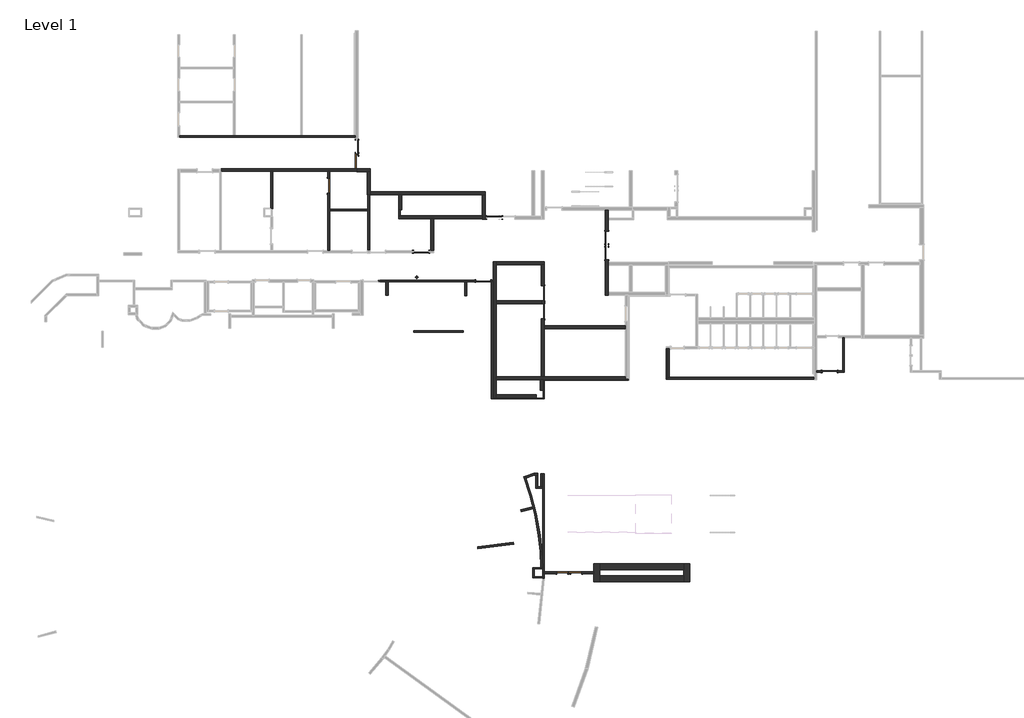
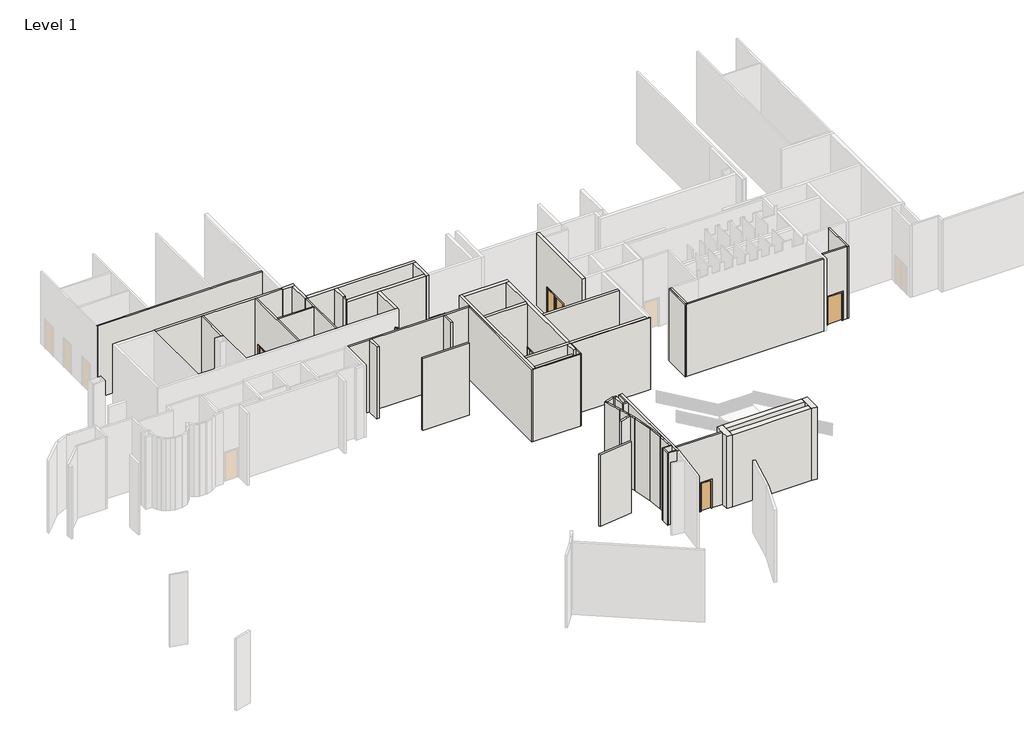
# One storey, part 6 of 10: 59 walls, 13 doors.
"""IFC4 building model written with IfcOpenShell, lengths in millimetres."""

from ifc_helpers import new_model, si_unit, frame, origin, origin_with_axes, place, context, project, spatial, polyline, outline, extrude, faceted_brep, transform, mapped, element, save
from components import door_7c9e1b45, door_3b0d1d25, door_f5ce0651, door_11de03bc, door_fe0b3fde, door_87287b79

model = new_model("IFC4")

# Units and contexts
model_context = context("Model", 3, world=origin())
ifc_project = project(units=[si_unit("LENGTHUNIT", "METRE", prefix="MILLI")], contexts=[model_context])

# Site, building, storey
site = spatial("IfcSite", under=ifc_project)
building = spatial("IfcBuilding", under=site)
storey = spatial("IfcBuildingStorey", under=building, Name="Level 1", Elevation=0.0)

# Doors
placement = place(None, origin())
door_shape = door_7c9e1b45(model_context)
element("IfcDoor", 1, ObjectType="Single-Flush : 34\" x 84\"", at=placement, inside=storey, context=model_context, shape_type="MappedRepresentation", body=[
    mapped(door_shape, transform((44907.7084121, 1092.0229172, 0.0), x_axis=(1.0, 0.0, 0.0), y_axis=(0.0, 1.0, 0.0), z_axis=(0.0, 0.0, 1.0))),
])
door_2_shape = door_3b0d1d25(model_context)
element("IfcDoor", 2, ObjectType="Single-Flush : 34\" x 84\"", at=placement, inside=storey, context=model_context, shape_type="MappedRepresentation", body=[
    mapped(door_2_shape, transform((44094.9084121, 1092.0229172, 0.0), x_axis=(-1.0, 0.0, 0.0), y_axis=(0.0, -1.0, 0.0), z_axis=(0.0, 0.0, 1.0))),
])
door_3_shape = door_f5ce0651(model_context)
element("IfcDoor", 3, ObjectType="Single-Flush : 36\" x 84\"", at=placement, inside=storey, context=model_context, shape_type="MappedRepresentation", body=[
    mapped(door_3_shape, transform((28231.2224216, 27273.072809, 0.0), x_axis=(0.0, 1.0, 0.0), y_axis=(-1.0, 0.0, 0.0), z_axis=(0.0, 0.0, 1.0))),
])
element("IfcDoor", 4, ObjectType="Single-Flush : 36\" x 84\"", at=placement, inside=storey, context=model_context, shape_type="MappedRepresentation", body=[
    mapped(door_3_shape, transform((62118.7911716, 14717.5353474, 0.0), x_axis=(-1.0, 0.0, 0.0), y_axis=(0.0, -1.0, 0.0), z_axis=(0.0, 0.0, 1.0))),
])
door_4_shape = door_11de03bc(model_context)
element("IfcDoor", 5, ObjectType="Single-Flush : 36\" x 84\"", at=placement, inside=storey, context=model_context, shape_type="MappedRepresentation", body=[
    mapped(door_4_shape, transform((30147.450819, 29848.9259526, 0.0), x_axis=(0.0, 1.0, 0.0), y_axis=(-1.0, 0.0, 0.0), z_axis=(0.0, 0.0, 1.0))),
])
element("IfcDoor", 6, ObjectType="Single-Flush : 36\" x 84\"", at=placement, inside=storey, context=model_context, shape_type="MappedRepresentation", body=[
    mapped(door_4_shape, transform((30147.450819, 28949.472809, 0.0), x_axis=(0.0, -1.0, 0.0), y_axis=(1.0, 0.0, 0.0), z_axis=(0.0, 0.0, 1.0))),
])
element("IfcDoor", 7, ObjectType="Single-Flush : 36\" x 84\"", at=placement, inside=storey, context=model_context, shape_type="MappedRepresentation", body=[
    mapped(door_4_shape, transform((39421.5099216, 25129.1858476, 0.0), x_axis=(-1.0, 0.0, 0.0), y_axis=(0.0, -1.0, 0.0), z_axis=(0.0, 0.0, 1.0))),
])
element("IfcDoor", 8, ObjectType="Single-Flush : 36\" x 84\"", at=placement, inside=storey, context=model_context, shape_type="MappedRepresentation", body=[
    mapped(door_4_shape, transform((47038.3161437, 22781.8436409, 0.0), x_axis=(0.0, -1.0, 0.0), y_axis=(1.0, 0.0, 0.0), z_axis=(0.0, 0.0, 1.0))),
])
element("IfcDoor", 9, ObjectType="Single-Flush : 36\" x 84\"", at=placement, inside=storey, context=model_context, shape_type="MappedRepresentation", body=[
    mapped(door_4_shape, transform((42728.2724797, 18776.7732534, 0.0), x_axis=(0.0, 1.0, 0.0), y_axis=(-1.0, 0.0, 0.0), z_axis=(0.0, 0.0, 1.0))),
])
door_5_shape = door_fe0b3fde(model_context)
element("IfcDoor", 10, ObjectType="Single-Flush : 36\" x 84\"", at=placement, inside=storey, context=model_context, shape_type="MappedRepresentation", body=[
    mapped(door_5_shape, transform((34482.2419789, 22810.6103474, 0.0), x_axis=(1.0, 0.0, 0.0), y_axis=(0.0, 1.0, 0.0), z_axis=(0.0, 0.0, 1.0))),
])
element("IfcDoor", 11, ObjectType="Single-Flush : 36\" x 84\"", at=placement, inside=storey, context=model_context, shape_type="MappedRepresentation", body=[
    mapped(door_3_shape, transform((38688.2023407, 20834.1732534, 0.0), x_axis=(1.0, 0.0, 0.0), y_axis=(0.0, 1.0, 0.0), z_axis=(0.0, 0.0, 1.0))),
])
door_6_shape = door_87287b79(model_context)
element("IfcDoor", 12, ObjectType="Single-Flush : 36\" x 84\"", at=placement, inside=storey, context=model_context, shape_type="MappedRepresentation", body=[
    mapped(door_6_shape, transform((47038.3161437, 23696.2436409, 0.0), x_axis=(0.0, 1.0, 0.0), y_axis=(-1.0, 0.0, 0.0), z_axis=(0.0, 0.0, 1.0))),
])
element("IfcDoor", 13, ObjectType="Single-Flush : 36\" x 84\"", at=placement, inside=storey, context=model_context, shape_type="MappedRepresentation", body=[
    mapped(door_6_shape, transform((42728.2724797, 19995.9732534, 0.0), x_axis=(0.0, -1.0, 0.0), y_axis=(1.0, 0.0, 0.0), z_axis=(0.0, 0.0, 1.0))),
])

# Walls
element("IfcWall", 14, ObjectType="N2A/B", at=placement, inside=storey, context=model_context, shape_type="Brep", body=[
    faceted_brep([(24311.6849216, 28262.085309, 0.0), (24311.6849216, 25769.7103474, 0.0), (24311.6849216, 25741.1353474, 0.0), (24311.6849216, 25741.1353474, 5486.4), (24311.6849216, 25769.7103474, 5486.4), (24311.6849216, 28262.085309, 5486.4), (24435.5099216, 28262.085309, 0.0), (24435.5099216, 28262.085309, 5486.4), (24435.5099216, 25741.1353474, 5486.4), (24435.5099216, 25741.1353474, 0.0), (24413.2849216, 25741.1353474, 0.0), (24333.9099216, 25741.1353474, 0.0), (24413.2849216, 25741.1353474, 5486.4), (24333.9099216, 25741.1353474, 5486.4)], [[[0, 1, 2, 3, 4, 5]], [[6, 7, 8, 9]], [[2, 1, 0, 6, 9, 10, 11]], [[3, 2, 11, 10, 9, 8, 12, 13]], [[5, 4, 3, 13, 12, 8, 7]], [[0, 5, 7, 6]]]),
])
element("IfcWall", 15, ObjectType="N2A/B", at=placement, inside=storey, context=model_context, shape_type="Brep", body=[
    faceted_brep([(30872.938319, 26670.5848475, 0.0), (30872.938319, 25704.5593474, 0.0), (30872.938319, 25580.7343474, 0.0), (30872.938319, 22888.3978474, 0.0), (30872.938319, 22888.3978474, 5486.4), (30872.938319, 25580.7343474, 5486.4), (30872.938319, 25704.5593474, 5486.4), (30872.938319, 26670.5848475, 5486.4), (30996.763319, 26670.5848475, 0.0), (30996.763319, 26670.5848475, 5486.4), (30996.763319, 22888.3978474, 5486.4), (30996.763319, 22888.3978474, 0.0)], [[[0, 1, 2, 3, 4, 5, 6, 7]], [[8, 9, 10, 11]], [[3, 2, 1, 0, 8, 11]], [[7, 6, 5, 4, 10, 9]], [[0, 7, 9, 8]], [[4, 3, 11, 10]]]),
])
element("IfcWall", 16, ObjectType="N2A/B", at=placement, inside=storey, context=model_context, shape_type="SweptSolid", body=[
    extrude(outline(polyline([(28293.1349216, 25704.5593474), (30872.938319, 25704.5593474), (30872.938319, 25580.7343474), (28293.1349216, 25580.7343474), (28293.1349216, 25704.5593474)])), origin_with_axes(), (0.0, 0.0, 1.0), 5486.4),
])
element("IfcWall", 17, ObjectType="N2A/B", at=placement, inside=storey, context=model_context, shape_type="Brep", body=[
    faceted_brep([(28293.1349216, 27781.072809, 2133.6), (28293.1349216, 27781.072809, 0.0), (28293.1349216, 28262.085309, 0.0), (28293.1349216, 28262.085309, 5486.4), (28293.1349216, 25704.5593474, 5486.4), (28293.1349216, 25580.7343474, 5486.4), (28293.1349216, 22888.3978474, 5486.4), (28293.1349216, 22888.3978474, 0.0), (28293.1349216, 25580.7343474, 0.0), (28293.1349216, 25704.5593474, 0.0), (28293.1349216, 26765.072809, 0.0), (28293.1349216, 26765.072809, 2133.6), (28169.3099216, 28262.085309, 0.0), (28169.3099216, 27781.072809, 0.0), (28169.3099216, 27781.072809, 2133.6), (28169.3099216, 26765.072809, 2133.6), (28169.3099216, 26765.072809, 0.0), (28169.3099216, 22888.3978474, 0.0), (28169.3099216, 22888.3978474, 5486.4), (28169.3099216, 28262.085309, 5486.4)], [[[0, 1, 2, 3, 4, 5, 6, 7, 8, 9, 10, 11]], [[12, 13, 14, 15, 16, 17, 18, 19]], [[2, 1, 13, 12]], [[10, 9, 8, 7, 17, 16]], [[6, 5, 4, 3, 19, 18]], [[7, 6, 18, 17]], [[3, 2, 12, 19]], [[14, 13, 1, 0]], [[15, 14, 0, 11]], [[16, 15, 11, 10]]]),
])
element("IfcWall", 18, ObjectType="N3A/B", at=placement, inside=storey, context=model_context, shape_type="Brep", body=[
    faceted_brep([(20977.9349216, 28262.085309, 0.0), (24311.6849216, 28262.085309, 0.0), (24435.5099216, 28262.085309, 0.0), (28169.3099216, 28262.085309, 0.0), (28293.1349216, 28262.085309, 0.0), (30147.450819, 28262.085309, 0.0), (30147.450819, 28262.085309, 5486.4), (28293.1349216, 28262.085309, 5486.4), (28169.3099216, 28262.085309, 5486.4), (24435.5099216, 28262.085309, 5486.4), (24311.6849216, 28262.085309, 5486.4), (20977.9349216, 28262.085309, 5486.4), (20977.9349216, 28417.660309, 0.0), (20977.9349216, 28417.660309, 5486.4), (30045.850819, 28417.660309, 5486.4), (30147.450819, 28417.660309, 5486.4), (30147.450819, 28417.660309, 0.0), (30045.850819, 28417.660309, 0.0), (20977.9349216, 28407.6094625, 0.0), (20977.9349216, 28407.6094625, 5486.4)], [[[0, 1, 2, 3, 4, 5, 6, 7, 8, 9, 10, 11]], [[12, 13, 14, 15, 16, 17]], [[5, 4, 3, 2, 1, 0, 18, 12, 17, 16]], [[6, 5, 16, 15]], [[11, 10, 9, 8, 7, 6, 15, 14, 13, 19]], [[0, 11, 19, 13, 12, 18]]]),
])
element("IfcWall", 19, ObjectType="N2A/B", at=placement, inside=storey, context=model_context, shape_type="SweptSolid", body=[
    extrude(outline(polyline([(51155.7359096, 14325.3601114), (51155.7359096, 16262.1728485), (51279.5609096, 16262.1728485), (51279.5609096, 14325.3601114), (51155.7359096, 14325.3601114)])), origin_with_axes(), (0.0, 0.0, 1.0), 5486.4),
])
element("IfcWall", 20, ObjectType="F1A", at=placement, inside=storey, context=model_context, shape_type="Brep", body=[
    faceted_brep([(51084.8538548, 16262.1728485, 0.0), (51084.8538548, 14201.5351114, 0.0), (51084.8538548, 14201.5351114, 5486.4), (51084.8538548, 16262.1728485, 5486.4), (51142.0038548, 16262.1728485, 0.0), (51142.0038548, 16262.1728485, 5486.4), (51142.0038548, 14325.3601114, 5486.4), (51142.0038548, 14201.5351114, 5486.4), (51142.0038548, 14201.5351114, 0.0), (51142.0038548, 14325.3601114, 0.0)], [[[0, 1, 2, 3]], [[4, 5, 6, 7, 8, 9]], [[1, 0, 4, 9, 8]], [[3, 2, 7, 6, 5]], [[2, 1, 8, 7]], [[0, 3, 5, 4]]]),
])
element("IfcWall", 21, ObjectType="F1C", at=placement, inside=storey, context=model_context, shape_type="Brep", body=[
    faceted_brep([(18141.188319, 30556.9509526, 0.0), (30045.850819, 30556.9509526, 0.0), (30045.850819, 30556.9509526, 5486.4), (18141.188319, 30556.9509526, 5486.4), (18141.188319, 30664.9009526, 0.0), (18141.188319, 30664.9009526, 5486.4), (21792.438319, 30664.9009526, 5486.4), (21900.388319, 30664.9009526, 5486.4), (26326.338319, 30664.9009526, 5486.4), (26434.288319, 30664.9009526, 5486.4), (29945.838319, 30664.9009526, 5486.4), (30045.850819, 30664.9009526, 5486.4), (30045.850819, 30664.9009526, 0.0), (29945.838319, 30664.9009526, 0.0), (26434.288319, 30664.9009526, 0.0), (26326.338319, 30664.9009526, 0.0), (21900.388319, 30664.9009526, 0.0), (21792.438319, 30664.9009526, 0.0)], [[[0, 1, 2, 3]], [[4, 5, 6, 7, 8, 9, 10, 11, 12, 13, 14, 15, 16, 17]], [[1, 0, 4, 17, 16, 15, 14, 13, 12]], [[3, 2, 11, 10, 9, 8, 7, 6, 5]], [[0, 3, 5, 4]], [[2, 1, 12, 11]]]),
])
element("IfcWall", 22, ObjectType="F4A", at=placement, inside=storey, context=model_context, shape_type="Brep", body=[
    faceted_brep([(42701.2849216, 7810.4583871, 0.0), (42701.2849216, 6922.5200025, 0.0), (42701.2849216, 6798.6950025, 0.0), (42701.2849216, 1451.8594628, 0.0), (42701.2849216, 1372.4844628, 0.0), (42701.2849216, 831.1469628, 0.0), (42701.2849216, 751.7719628, 0.0), (42701.2849216, 701.7030838, 0.0), (42701.2849216, 701.7030838, 5486.4), (42701.2849216, 751.7719628, 5486.4), (42701.2849216, 831.1469628, 5486.4), (42701.2849216, 1372.4844628, 5486.4), (42701.2849216, 1451.8594628, 5486.4), (42701.2849216, 6798.6950025, 5486.4), (42701.2849216, 6922.5200025, 5486.4), (42701.2849216, 7810.4583871, 5486.4), (42825.1099216, 7810.4583871, 0.0), (42825.1099216, 7810.4583871, 5486.4), (42825.1099216, 1153.9354172, 5486.4), (42825.1099216, 1030.1104172, 5486.4), (42825.1099216, 695.2136905, 5486.4), (42825.1099216, 695.2136905, 0.0), (42825.1099216, 1030.1104172, 0.0), (42825.1099216, 1153.9354172, 0.0)], [[[0, 1, 2, 3, 4, 5, 6, 7, 8, 9, 10, 11, 12, 13, 14, 15]], [[16, 17, 18, 19, 20, 21, 22, 23]], [[7, 6, 5, 4, 3, 2, 1, 0, 16, 23, 22, 21]], [[15, 14, 13, 12, 11, 10, 9, 8, 20, 19, 18, 17]], [[0, 15, 17, 16]], [[8, 7, 21, 20]]]),
])
element("IfcWall", 23, ObjectType="F4A", at=placement, inside=storey, context=model_context, shape_type="SweptSolid", body=[
    extrude(outline(polyline([(0.0, 46152.3084121), (5486.4, 46152.3084121), (5486.4, 42825.1099216), (0.0, 42825.1099216), (0.0, 43663.1084121), (2133.6, 43663.1084121), (2133.6, 45339.5084121), (0.0, 45339.5084121), (0.0, 46152.3084121)])), frame((0.0, 1030.1104172, 0.0), z_axis=(0.0, 1.0, 0.0), x_axis=(0.0, 0.0, 1.0)), (0.0, 0.0, 1.0), 123.825),
])
element("IfcWall", 24, ObjectType="F4A", at=placement, inside=storey, context=model_context, shape_type="SweptSolid", body=[
    extrude(outline(polyline([(40739.2640745, 3033.1011519), (38319.0395383, 2735.9349449), (38303.9490669, 2858.8369721), (40724.173603, 3156.0031791), (40739.2640745, 3033.1011519)])), origin_with_axes(), (0.0, 0.0, 1.0), 5486.4),
])
element("IfcWall", 25, ObjectType="F4A", at=placement, inside=storey, context=model_context, shape_type="SweptSolid", body=[
    extrude(outline(polyline([(42135.4554374, 7690.0334855), (41567.8416434, 7494.5883825), (41529.5717854, 7612.3708945), (42114.7342388, 7813.8584855), (42135.4554374, 7690.0334855)])), origin_with_axes(), (0.0, 0.0, 1.0), 5486.4),
])
element("IfcWall", 26, ObjectType="F4A", at=placement, inside=storey, context=model_context, shape_type="Brep", body=[
    faceted_brep([(42135.4554374, 7690.0334855, 0.0), (42247.3323381, 7690.0334855, 0.0), (42371.1573381, 7690.0334855, 0.0), (42371.1573381, 7690.0334855, 5486.4), (42247.3323381, 7690.0334855, 5486.4), (42135.4554374, 7690.0334855, 5486.4), (42114.7342388, 7813.8584855, 0.0), (42114.7342388, 7813.8584855, 5486.4), (42371.1573381, 7813.8584855, 5486.4), (42371.1573381, 7813.8584855, 0.0)], [[[0, 1, 2, 3, 4, 5]], [[6, 7, 8, 9]], [[2, 1, 0, 6, 9]], [[5, 4, 3, 8, 7]], [[0, 5, 7, 6]], [[3, 2, 9, 8]]]),
])
element("IfcWall", 27, ObjectType="F4A", at=placement, inside=storey, context=model_context, shape_type="Brep", body=[
    faceted_brep([(42247.3323381, 7690.0334855, 0.0), (42247.3323381, 6798.6950025, 0.0), (42247.3323381, 6798.6950025, 5486.4), (42247.3323381, 7690.0334855, 5486.4), (42371.1573381, 7690.0334855, 0.0), (42371.1573381, 7690.0334855, 5486.4), (42371.1573381, 6922.5200025, 5486.4), (42371.1573381, 6798.6950025, 5486.4), (42371.1573381, 6798.6950025, 0.0), (42371.1573381, 6922.5200025, 0.0)], [[[0, 1, 2, 3]], [[4, 5, 6, 7, 8, 9]], [[1, 0, 4, 9, 8]], [[3, 2, 7, 6, 5]], [[2, 1, 8, 7]], [[0, 3, 5, 4]]]),
])
element("IfcWall", 28, ObjectType="F4A", at=placement, inside=storey, context=model_context, shape_type="Brep", body=[
    faceted_brep([(42371.1573381, 6798.6950025, 0.0), (42701.2849216, 6798.6950025, 0.0), (42701.2849216, 6798.6950025, 5486.4), (42371.1573381, 6798.6950025, 5486.4), (42371.1573381, 6922.5200025, 0.0), (42371.1573381, 6922.5200025, 5486.4), (42574.3246855, 6922.5200025, 5486.4), (42698.1496855, 6922.5200025, 5486.4), (42701.2849216, 6922.5200025, 5486.4), (42701.2849216, 6922.5200025, 0.0), (42698.1496855, 6922.5200025, 0.0), (42574.3246855, 6922.5200025, 0.0)], [[[0, 1, 2, 3]], [[4, 5, 6, 7, 8, 9, 10, 11]], [[1, 0, 4, 11, 10, 9]], [[3, 2, 8, 7, 6, 5]], [[0, 3, 5, 4]], [[2, 1, 9, 8]]]),
])
element("IfcWall", 29, ObjectType="F4A", at=placement, inside=storey, context=model_context, shape_type="SweptSolid", body=[
    extrude(outline(polyline([(42698.1496855, 7811.5200025), (42698.1496855, 6922.5200025), (42574.3246855, 6922.5200025), (42574.3246855, 7811.5200025), (42698.1496855, 7811.5200025)])), origin_with_axes(), (0.0, 0.0, 1.0), 5486.4),
])
element("IfcWall", 30, ObjectType="F5A", at=placement, inside=storey, context=model_context, shape_type="Brep", body=[
    faceted_brep([(48505.1849216, 14175.8909273, 0.0), (42790.1854064, 14175.8909273, 0.0), (42790.1854064, 14175.8909273, 5486.4), (48505.1849216, 14175.8909273, 5486.4), (48505.1849216, 14118.7409273, 0.0), (48505.1849216, 14118.7409273, 5486.4), (42818.7604064, 14118.7409273, 5486.4), (42790.1854064, 14118.7409273, 5486.4), (42790.1854064, 14118.7409273, 0.0), (42818.7604064, 14118.7409273, 0.0)], [[[0, 1, 2, 3]], [[4, 5, 6, 7, 8, 9]], [[1, 0, 4, 9, 8]], [[2, 1, 8, 7]], [[3, 2, 7, 6, 5]], [[0, 3, 5, 4]]]),
])
element("IfcWall", 31, ObjectType="F5A", at=placement, inside=storey, context=model_context, shape_type="Brep", body=[
    faceted_brep([(42818.7604064, 12864.3019201, 0.0), (42818.7604064, 14118.7409273, 0.0), (42818.7604064, 14118.7409273, 5486.4), (42818.7604064, 12864.3019201, 5486.4), (42761.6104064, 12864.3019201, 0.0), (42761.6104064, 12864.3019201, 5486.4), (42761.6104064, 12921.4519201, 5486.4), (42761.6104064, 14118.7409273, 5486.4), (42761.6104064, 14118.7409273, 0.0), (42761.6104064, 12921.4519201, 0.0), (42790.1854064, 14118.7409273, 0.0), (42790.1854064, 14118.7409273, 5486.4)], [[[0, 1, 2, 3]], [[4, 5, 6, 7, 8, 9]], [[1, 0, 4, 9, 8, 10]], [[3, 2, 11, 7, 6, 5]], [[0, 3, 5, 4]], [[2, 1, 10, 8, 7, 11]]]),
])
element("IfcWall", 32, ObjectType="F5A", at=placement, inside=storey, context=model_context, shape_type="SweptSolid", body=[
    extrude(outline(polyline([(42761.6104064, 12864.3019201), (39351.7773407, 12864.3019201), (39351.7773407, 12921.4519201), (42761.6104064, 12921.4519201), (42761.6104064, 12864.3019201)])), origin_with_axes(), (0.0, 0.0, 1.0), 5486.4),
])
element("IfcWall", 33, ObjectType="F5B", at=placement, inside=storey, context=model_context, shape_type="Brep", body=[
    faceted_brep([(39351.7773407, 12864.3019201, 0.0), (39351.7773407, 12921.4519201, 0.0), (39351.7773407, 20772.2607534, 0.0), (39351.7773407, 20772.2607534, 5486.4), (39351.7773407, 12921.4519201, 5486.4), (39351.7773407, 12864.3019201, 5486.4), (39243.8273407, 12864.3019201, 0.0), (39243.8273407, 12864.3019201, 5486.4), (39243.8273407, 20772.2607534, 5486.4), (39243.8273407, 20772.2607534, 0.0)], [[[0, 1, 2, 3, 4, 5]], [[6, 7, 8, 9]], [[2, 1, 0, 6, 9]], [[5, 4, 3, 8, 7]], [[0, 5, 7, 6]], [[3, 2, 9, 8]]]),
])
element("IfcWall", 34, ObjectType="F5B", at=placement, inside=storey, context=model_context, shape_type="Brep", body=[
    faceted_brep([(42540.1963899, 2531.0859585, 0.0), (42596.7562539, 1451.8594628, 0.0), (42596.7562539, 1451.8594628, 5486.4), (42540.1963899, 2531.0859585, 5486.4), (42647.8505065, 2539.5585212, 0.0), (42647.8505065, 2539.5585212, 5486.4), (42704.8543987, 1451.8594628, 5486.4), (42704.8543987, 1451.8594628, 0.0), (42701.2849216, 1451.8594628, 0.0), (42701.2849216, 1451.8594628, 5486.4)], [[[0, 1, 2, 3]], [[4, 5, 6, 7]], [[1, 0, 4, 7, 8]], [[3, 2, 9, 6, 5]], [[0, 3, 5, 4]], [[2, 1, 8, 7, 6, 9]]]),
])
element("IfcWall", 35, ObjectType="F5B", at=placement, inside=storey, context=model_context, shape_type="SweptSolid", body=[
    extrude(outline(polyline([(42533.3397596, 3629.0555009), (42647.8505065, 2539.5585212), (42540.1963899, 2531.0859585), (42426.3751617, 3614.0226071), (42533.3397596, 3629.0555009)])), origin_with_axes(), (0.0, 0.0, 1.0), 5486.4),
])
element("IfcWall", 36, ObjectType="F5B", at=placement, inside=storey, context=model_context, shape_type="SweptSolid", body=[
    extrude(outline(polyline([(42276.7847446, 5084.0512935), (42533.3397596, 3629.0555009), (42426.3751617, 3614.0226071), (42171.293186, 5060.664378), (42276.7847446, 5084.0512935)])), origin_with_axes(), (0.0, 0.0, 1.0), 5486.4),
])
element("IfcWall", 37, ObjectType="F5B", at=placement, inside=storey, context=model_context, shape_type="Brep", body=[
    faceted_brep([(42276.7847446, 5084.0512935, 0.0), (41927.3868023, 6388.0221662, 0.0), (41927.3868023, 6388.0221662, 5486.4), (42276.7847446, 5084.0512935, 5486.4), (42171.293186, 5060.664378, 0.0), (42171.293186, 5060.664378, 5486.4), (42068.3338148, 5444.9139826, 5486.4), (42036.2855465, 5564.5197481, 5486.4), (41823.8467313, 6357.3521999, 5486.4), (41823.8467313, 6357.3521999, 0.0), (42036.2855465, 5564.5197481, 0.0), (42068.3338148, 5444.9139826, 0.0)], [[[0, 1, 2, 3]], [[4, 5, 6, 7, 8, 9, 10, 11]], [[1, 0, 4, 11, 10, 9]], [[3, 2, 8, 7, 6, 5]], [[2, 1, 9, 8]], [[0, 3, 5, 4]]]),
])
element("IfcWall", 38, ObjectType="F5B", at=placement, inside=storey, context=model_context, shape_type="Brep", body=[
    faceted_brep([(41927.3868023, 6388.0221662, 0.0), (41567.8416434, 7494.5883825, 0.0), (41529.5717854, 7612.3708945, 0.0), (41529.5717854, 7612.3708945, 5486.4), (41567.8416434, 7494.5883825, 5486.4), (41927.3868023, 6388.0221662, 5486.4), (41823.8467313, 6357.3521999, 0.0), (41823.8467313, 6357.3521999, 5486.4), (41427.4875072, 7577.2204587, 5486.4), (41427.4875072, 7577.2204587, 0.0)], [[[0, 1, 2, 3, 4, 5]], [[6, 7, 8, 9]], [[2, 1, 0, 6, 9]], [[5, 4, 3, 8, 7]], [[3, 2, 9, 8]], [[0, 5, 7, 6]]]),
])
element("IfcWall", 39, ObjectType="F5C", at=placement, inside=storey, context=model_context, shape_type="Brep", body=[
    faceted_brep([(42701.2849216, 1451.8594628, 0.0), (42596.7562539, 1451.8594628, 0.0), (42051.9974216, 1451.8594628, 0.0), (42051.9974216, 1451.8594628, 5486.4), (42596.7562539, 1451.8594628, 5486.4), (42701.2849216, 1451.8594628, 5486.4), (42701.2849216, 1372.4844628, 0.0), (42701.2849216, 1372.4844628, 5486.4), (42131.3724216, 1372.4844628, 5486.4), (42051.9974216, 1372.4844628, 5486.4), (42051.9974216, 1372.4844628, 0.0), (42131.3724216, 1372.4844628, 0.0)], [[[0, 1, 2, 3, 4, 5]], [[6, 7, 8, 9, 10, 11]], [[2, 1, 0, 6, 11, 10]], [[5, 4, 3, 9, 8, 7]], [[3, 2, 10, 9]], [[0, 5, 7, 6]]]),
])
element("IfcWall", 40, ObjectType="F5C", at=placement, inside=storey, context=model_context, shape_type="Brep", body=[
    faceted_brep([(42051.9974216, 1372.4844628, 0.0), (42051.9974216, 751.7719628, 0.0), (42051.9974216, 751.7719628, 5486.4), (42051.9974216, 1372.4844628, 5486.4), (42131.3724216, 1372.4844628, 0.0), (42131.3724216, 1372.4844628, 5486.4), (42131.3724216, 831.1469628, 5486.4), (42131.3724216, 751.7719628, 5486.4), (42131.3724216, 751.7719628, 0.0), (42131.3724216, 831.1469628, 0.0)], [[[0, 1, 2, 3]], [[4, 5, 6, 7, 8, 9]], [[1, 0, 4, 9, 8]], [[3, 2, 7, 6, 5]], [[2, 1, 8, 7]], [[0, 3, 5, 4]]]),
])
element("IfcWall", 41, ObjectType="F5C", at=placement, inside=storey, context=model_context, shape_type="SweptSolid", body=[
    extrude(outline(polyline([(42701.2849216, 751.7719628), (42131.3724216, 751.7719628), (42131.3724216, 831.1469628), (42701.2849216, 831.1469628), (42701.2849216, 751.7719628)])), origin_with_axes(), (0.0, 0.0, 1.0), 5486.4),
])
element("IfcWall", 42, ObjectType="N11A", at=placement, inside=storey, context=model_context, shape_type="Brep", body=[
    faceted_brep([(30569.6099216, 20772.2607534, 0.0), (30579.1349216, 20772.2607534, 0.0), (30579.1349216, 20772.2607534, 2133.6), (31595.1349216, 20772.2607534, 2133.6), (31595.1349216, 20772.2607534, 0.0), (32087.2599216, 20772.2607534, 0.0), (32271.4099216, 20772.2607534, 0.0), (37437.1419568, 20772.2607534, 0.0), (37560.9669568, 20772.2607534, 0.0), (38180.2023407, 20772.2607534, 0.0), (38180.2023407, 20772.2607534, 2133.6), (39196.2023407, 20772.2607534, 2133.6), (39196.2023407, 20772.2607534, 0.0), (39243.8273407, 20772.2607534, 0.0), (39351.7773407, 20772.2607534, 0.0), (39353.311612, 20772.2607534, 0.0), (39353.311612, 20772.2607534, 5486.4), (39351.7773407, 20772.2607534, 5486.4), (39243.8273407, 20772.2607534, 5486.4), (37560.9669568, 20772.2607534, 5486.4), (37437.1419568, 20772.2607534, 5486.4), (32271.4099216, 20772.2607534, 5486.4), (32087.2599216, 20772.2607534, 5486.4), (30569.6099216, 20772.2607534, 5486.4), (30579.1349216, 20896.0857534, 2133.6), (30579.1349216, 20896.0857534, 0.0), (30569.6099216, 20896.0857534, 0.0), (30569.6099216, 20896.0857534, 5486.4), (39353.311612, 20896.0857534, 5486.4), (39353.311612, 20896.0857534, 0.0), (39196.2023407, 20896.0857534, 0.0), (39196.2023407, 20896.0857534, 2133.6), (38180.2023407, 20896.0857534, 2133.6), (38180.2023407, 20896.0857534, 0.0), (31595.1349216, 20896.0857534, 0.0), (31595.1349216, 20896.0857534, 2133.6)], [[[0, 1, 2, 3, 4, 5, 6, 7, 8, 9, 10, 11, 12, 13, 14, 15, 16, 17, 18, 19, 20, 21, 22, 23]], [[24, 25, 26, 27, 28, 29, 30, 31, 32, 33, 34, 35]], [[15, 14, 13, 12, 30, 29]], [[26, 25, 1, 0]], [[34, 33, 9, 8, 7, 6, 5, 4]], [[23, 22, 21, 20, 19, 18, 17, 16, 28, 27]], [[16, 15, 29, 28]], [[0, 23, 27, 26]], [[31, 30, 12, 11]], [[32, 31, 11, 10]], [[33, 32, 10, 9]], [[2, 1, 25, 24]], [[3, 2, 24, 35]], [[4, 3, 35, 34]]]),
])
element("IfcWall", 43, ObjectType="N11B", at=placement, inside=storey, context=model_context, shape_type="SweptSolid", body=[
    extrude(outline(polyline([(32087.2599216, 19867.3857534), (32087.2599216, 20772.2607534), (32271.4099216, 20772.2607534), (32271.4099216, 19867.3857534), (32087.2599216, 19867.3857534)])), origin_with_axes(), (0.0, 0.0, 1.0), 5486.4),
])
element("IfcWall", 44, ObjectType="N16A", at=placement, inside=storey, context=model_context, shape_type="SweptSolid", body=[
    extrude(outline(polyline([(37326.0287296, 17361.9486303), (33973.2099271, 17361.9486303), (33973.2099271, 17485.7736303), (37326.0287296, 17485.7736303), (37326.0287296, 17361.9486303)])), origin_with_axes(), (0.0, 0.0, 1.0), 5486.4),
])
element("IfcWall", 45, ObjectType="N17A", at=placement, inside=storey, context=model_context, shape_type="SweptSolid", body=[
    extrude(outline(polyline([(37437.1419568, 19849.922731), (37437.1419568, 20772.2607534), (37560.9669568, 20772.2607534), (37560.9669568, 19849.922731), (37437.1419568, 19849.922731)])), origin_with_axes(), (0.0, 0.0, 1.0), 5486.4),
])
element("IfcWall", 46, ObjectType="N17A", at=placement, inside=storey, context=model_context, shape_type="SweptSolid", body=[
    extrude(outline(polyline([(41228.3947222, 5348.0460541), (42036.2855465, 5564.5197481), (42068.3338148, 5444.9139826), (41260.4429905, 5228.4402887), (41228.3947222, 5348.0460541)])), origin_with_axes(), (0.0, 0.0, 1.0), 5486.4),
])
element("IfcWall", 47, ObjectType="N1A", at=placement, inside=storey, context=model_context, shape_type="Brep", body=[
    faceted_brep([(51142.0038548, 14201.5351114, 0.0), (61067.0724216, 14201.5351114, 0.0), (61067.0724216, 14201.5351114, 5486.4), (51142.0038548, 14201.5351114, 5486.4), (51142.0038548, 14325.3601114, 0.0), (51142.0038548, 14325.3601114, 5486.4), (51155.7359096, 14325.3601114, 5486.4), (51279.5609096, 14325.3601114, 5486.4), (61067.0724216, 14325.3601114, 5486.4), (61067.0724216, 14325.3601114, 0.0), (51279.5609096, 14325.3601114, 0.0), (51155.7359096, 14325.3601114, 0.0)], [[[0, 1, 2, 3]], [[4, 5, 6, 7, 8, 9, 10, 11]], [[1, 0, 4, 11, 10, 9]], [[2, 1, 9, 8]], [[3, 2, 8, 7, 6, 5]], [[0, 3, 5, 4]]]),
])
element("IfcWall", 48, ObjectType="N1A", at=placement, inside=storey, context=model_context, shape_type="Brep", body=[
    faceted_brep([(63006.9974216, 17011.4728474, 0.0), (63006.9974216, 14779.4478474, 0.0), (63006.9974216, 14655.6228474, 0.0), (63006.9974216, 14655.6228474, 5486.4), (63006.9974216, 14779.4478474, 5486.4), (63006.9974216, 17011.4728474, 5486.4), (63130.8224216, 17011.4728474, 0.0), (63130.8224216, 17011.4728474, 5486.4), (63130.8224216, 14655.6228474, 5486.4), (63130.8224216, 14655.6228474, 0.0)], [[[0, 1, 2, 3, 4, 5]], [[6, 7, 8, 9]], [[2, 1, 0, 6, 9]], [[5, 4, 3, 8, 7]], [[3, 2, 9, 8]], [[0, 5, 7, 6]]]),
])
element("IfcWall", 49, ObjectType="N1A", at=placement, inside=storey, context=model_context, shape_type="SweptSolid", body=[
    extrude(outline(polyline([(0.0, 61260.7474216), (0.0, 61610.7911716), (2133.6, 61610.7911716), (2133.6, 62626.7911716), (0.0, 62626.7911716), (0.0, 63006.9974216), (5486.4, 63006.9974216), (5486.4, 61260.7474216), (0.0, 61260.7474216)])), frame((0.0, 14655.6228474, 0.0), z_axis=(0.0, 1.0, 0.0), x_axis=(0.0, 0.0, 1.0)), (0.0, 0.0, 1.0), 123.825),
])
element("IfcWall", 50, ObjectType="N1A", at=placement, inside=storey, context=model_context, shape_type="SweptSolid", body=[
    extrude(outline(polyline([(34208.046716, 20990.4878194), (34100.2836426, 21098.2508928), (34187.8411397, 21185.80839), (34295.6042132, 21078.0453165), (34208.046716, 20990.4878194)])), origin_with_axes(), (0.0, 0.0, 1.0), 5486.4),
])
element("IfcWall", 51, ObjectType="N5A", at=placement, inside=storey, context=model_context, shape_type="SweptSolid", body=[
    extrude(outline(polyline([(33070.9544789, 25642.6468474), (33070.9544789, 25250.5978474), (32969.3544789, 25250.5978474), (32969.3544789, 25642.6468474), (33070.9544789, 25642.6468474)])), origin_with_axes(), (0.0, 0.0, 1.0), 5486.4),
])
element("IfcWall", 52, ObjectType="N5C", at=placement, inside=storey, context=model_context, shape_type="Brep", body=[
    faceted_brep([(30147.450819, 28238.272809, 0.0), (30833.250819, 28238.272809, 0.0), (31036.450819, 28238.272809, 0.0), (31036.450819, 28238.272809, 5486.4), (30833.250819, 28238.272809, 5486.4), (30147.450819, 28238.272809, 5486.4), (30147.450819, 28441.472809, 0.0), (30147.450819, 28441.472809, 2133.6), (30147.450819, 28441.472809, 5486.4), (30249.050819, 28441.472809, 5486.4), (31036.450819, 28441.472809, 5486.4), (31036.450819, 28441.472809, 0.0), (30147.450819, 28262.085309, 0.0), (30147.450819, 28417.660309, 0.0), (30147.450819, 28417.660309, 5486.4), (30147.450819, 28262.085309, 5486.4)], [[[0, 1, 2, 3, 4, 5]], [[6, 7, 8, 9, 10, 11]], [[2, 1, 0, 12, 13, 6, 11]], [[5, 4, 3, 10, 9, 8, 14, 15]], [[0, 5, 15, 14, 8, 7, 6, 13, 12]], [[3, 2, 11, 10]]]),
])
element("IfcWall", 53, ObjectType="N5C", at=placement, inside=storey, context=model_context, shape_type="Brep", body=[
    faceted_brep([(30833.250819, 28238.272809, 0.0), (30833.250819, 26670.5848475, 0.0), (30833.250819, 26670.5848475, 5486.4), (30833.250819, 28238.272809, 5486.4), (31036.450819, 28238.272809, 0.0), (31036.450819, 28238.272809, 5486.4), (31036.450819, 26873.7848475, 5486.4), (31036.450819, 26670.5848475, 5486.4), (31036.450819, 26670.5848475, 0.0), (31036.450819, 26873.7848475, 0.0), (30996.763319, 26670.5848475, 0.0), (30872.938319, 26670.5848475, 0.0), (30872.938319, 26670.5848475, 5486.4), (30996.763319, 26670.5848475, 5486.4)], [[[0, 1, 2, 3]], [[4, 5, 6, 7, 8, 9]], [[1, 0, 4, 9, 8, 10, 11]], [[3, 2, 12, 13, 7, 6, 5]], [[2, 1, 11, 10, 8, 7, 13, 12]], [[0, 3, 5, 4]]]),
])
element("IfcWall", 54, ObjectType="N5C", at=placement, inside=storey, context=model_context, shape_type="Brep", body=[
    faceted_brep([(31036.450819, 26670.5848475, 0.0), (32965.1474216, 26670.5848475, 0.0), (33168.3474216, 26670.5848475, 0.0), (38634.1099216, 26670.5848475, 0.0), (38837.3099216, 26670.5848475, 0.0), (38837.3099216, 26670.5848475, 5486.4), (38634.1099216, 26670.5848475, 5486.4), (33168.3474216, 26670.5848475, 5486.4), (32965.1474216, 26670.5848475, 5486.4), (31036.450819, 26670.5848475, 5486.4), (31036.450819, 26873.7848475, 0.0), (31036.450819, 26873.7848475, 5486.4), (38837.3099216, 26873.7848475, 5486.4), (38837.3099216, 26873.7848475, 0.0)], [[[0, 1, 2, 3, 4, 5, 6, 7, 8, 9]], [[10, 11, 12, 13]], [[4, 3, 2, 1, 0, 10, 13]], [[9, 8, 7, 6, 5, 12, 11]], [[5, 4, 13, 12]], [[0, 9, 11, 10]]]),
])
element("IfcWall", 55, ObjectType="N5C", at=placement, inside=storey, context=model_context, shape_type="Brep", body=[
    faceted_brep([(38634.1099216, 26670.5848475, 0.0), (38634.1099216, 25250.5978474, 0.0), (38634.1099216, 25047.3978474, 0.0), (38634.1099216, 25027.5858476, 0.0), (38634.1099216, 25027.5858476, 5486.4), (38634.1099216, 25047.3978474, 5486.4), (38634.1099216, 25250.5978474, 5486.4), (38634.1099216, 26670.5848475, 5486.4), (38837.3099216, 26670.5848475, 0.0), (38837.3099216, 26670.5848475, 5486.4), (38837.3099216, 25027.5858476, 5486.4), (38837.3099216, 25027.5858476, 0.0)], [[[0, 1, 2, 3, 4, 5, 6, 7]], [[8, 9, 10, 11]], [[3, 2, 1, 0, 8, 11]], [[7, 6, 5, 4, 10, 9]], [[4, 3, 11, 10]], [[0, 7, 9, 8]]]),
])
element("IfcWall", 56, ObjectType="N5C", at=placement, inside=storey, context=model_context, shape_type="SweptSolid", body=[
    extrude(outline(polyline([(32969.3544789, 25250.5978474), (38634.1099216, 25250.5978474), (38634.1099216, 25047.3978474), (32969.3544789, 25047.3978474), (32969.3544789, 25250.5978474)])), origin_with_axes(), (0.0, 0.0, 1.0), 5486.4),
])
element("IfcWall", 57, ObjectType="N5C", at=placement, inside=storey, context=model_context, shape_type="SweptSolid", body=[
    extrude(outline(polyline([(33168.3474216, 26670.5848475), (33168.3474216, 25642.6468474), (32965.1474216, 25642.6468474), (32965.1474216, 26670.5848475), (33168.3474216, 26670.5848475)])), origin_with_axes(), (0.0, 0.0, 1.0), 5486.4),
])
element("IfcWall", 58, ObjectType="N5C", at=placement, inside=storey, context=model_context, shape_type="Brep", body=[
    faceted_brep([(46936.7161437, 19871.3858476, 0.0), (46936.7161437, 19871.3858476, 5486.4), (46936.7161437, 25637.1858476, 5486.4), (46936.7161437, 25637.1858476, 0.0), (46936.7161437, 24204.2436409, 0.0), (46936.7161437, 24204.2436409, 2133.6), (46936.7161437, 22273.8436409, 2133.6), (46936.7161437, 22273.8436409, 0.0), (47139.9161437, 25637.1858476, 0.0), (47139.9161437, 25637.1858476, 5486.4), (47139.9161437, 22121.4436409, 5486.4), (47139.9161437, 21918.2436409, 5486.4), (47139.9161437, 20074.5858476, 5486.4), (47139.9161437, 19871.3858476, 5486.4), (47139.9161437, 19871.3858476, 0.0), (47139.9161437, 20074.5858476, 0.0), (47139.9161437, 21918.2436409, 0.0), (47139.9161437, 22121.4436409, 0.0), (47139.9161437, 22273.8436409, 0.0), (47139.9161437, 22273.8436409, 2133.6), (47139.9161437, 24204.2436409, 2133.6), (47139.9161437, 24204.2436409, 0.0)], [[[0, 1, 2, 3, 4, 5, 6, 7]], [[8, 9, 10, 11, 12, 13, 14, 15, 16, 17, 18, 19, 20, 21]], [[3, 8, 21, 4]], [[14, 0, 7, 18, 17, 16, 15]], [[2, 1, 13, 12, 11, 10, 9]], [[1, 0, 14, 13]], [[3, 2, 9, 8]], [[5, 4, 21, 20]], [[5, 20, 19, 6]], [[6, 19, 18, 7]]]),
])
element("IfcWall", 59, ObjectType="N5C", at=placement, inside=storey, context=model_context, shape_type="Brep", body=[
    faceted_brep([(48300.3974216, 14365.0476114, 0.0), (42829.8724797, 14365.0476114, 0.0), (42626.6724797, 14365.0476114, 0.0), (39556.511612, 14365.0476114, 0.0), (39556.511612, 14365.0476114, 5486.4), (42626.6724797, 14365.0476114, 5486.4), (42829.8724797, 14365.0476114, 5486.4), (48300.3974216, 14365.0476114, 5486.4), (48300.3974216, 14161.8476114, 0.0), (48300.3974216, 14161.8476114, 5486.4), (42760.023391, 14161.8476114, 5486.4), (42556.823391, 14161.8476114, 5486.4), (39556.511612, 14161.8476114, 5486.4), (39556.511612, 14161.8476114, 0.0), (42556.823391, 14161.8476114, 0.0), (42760.023391, 14161.8476114, 0.0)], [[[0, 1, 2, 3, 4, 5, 6, 7]], [[8, 9, 10, 11, 12, 13, 14, 15]], [[3, 2, 1, 0, 8, 15, 14, 13]], [[7, 6, 5, 4, 12, 11, 10, 9]], [[0, 7, 9, 8]], [[4, 3, 13, 12]]]),
])
element("IfcWall", 60, ObjectType="N5C", at=placement, inside=storey, context=model_context, shape_type="SweptSolid", body=[
    extrude(outline(polyline([(42829.8724797, 17815.8486025), (48300.3974216, 17815.8486025), (48300.3974216, 17612.6486025), (42829.8724797, 17612.6486025), (42829.8724797, 17815.8486025)])), origin_with_axes(), (0.0, 0.0, 1.0), 5486.4),
])
element("IfcWall", 61, ObjectType="N5C", at=placement, inside=storey, context=model_context, shape_type="Brep", body=[
    faceted_brep([(39353.311612, 22137.4476114, 0.0), (39353.311612, 12923.0394201, 0.0), (39353.311612, 12923.0394201, 5486.4), (39353.311612, 22137.4476114, 5486.4), (39556.511612, 22137.4476114, 0.0), (39556.511612, 22137.4476114, 5486.4), (39556.511612, 21934.2476114, 5486.4), (39556.511612, 19487.9732534, 5486.4), (39556.511612, 19284.7732534, 5486.4), (39556.511612, 14365.0476114, 5486.4), (39556.511612, 14161.8476114, 5486.4), (39556.511612, 13126.2394201, 5486.4), (39556.511612, 12923.0394201, 5486.4), (39556.511612, 12923.0394201, 0.0), (39556.511612, 13126.2394201, 0.0), (39556.511612, 14161.8476114, 0.0), (39556.511612, 14365.0476114, 0.0), (39556.511612, 19284.7732534, 0.0), (39556.511612, 19487.9732534, 0.0), (39556.511612, 21934.2476114, 0.0)], [[[0, 1, 2, 3]], [[4, 5, 6, 7, 8, 9, 10, 11, 12, 13, 14, 15, 16, 17, 18, 19]], [[1, 0, 4, 19, 18, 17, 16, 15, 14, 13]], [[3, 2, 12, 11, 10, 9, 8, 7, 6, 5]], [[2, 1, 13, 12]], [[0, 3, 5, 4]]]),
])
element("IfcWall", 62, ObjectType="N5C", at=placement, inside=storey, context=model_context, shape_type="SweptSolid", body=[
    extrude(outline(polyline([(42262.2491154, 12923.0394201), (39556.511612, 12923.0394201), (39556.511612, 13126.2394201), (42262.2491154, 13126.2394201), (42262.2491154, 12923.0394201)])), origin_with_axes(), (0.0, 0.0, 1.0), 5486.4),
])
element("IfcWall", 63, ObjectType="N5C", at=placement, inside=storey, context=model_context, shape_type="SweptSolid", body=[
    extrude(outline(polyline([(42760.023391, 14161.8476114), (42760.023391, 13450.6476114), (42556.823391, 13450.6476114), (42556.823391, 14161.8476114), (42760.023391, 14161.8476114)])), origin_with_axes(), (0.0, 0.0, 1.0), 5486.4),
])
element("IfcWall", 64, ObjectType="N5C", at=placement, inside=storey, context=model_context, shape_type="Brep", body=[
    faceted_brep([(39556.511612, 21934.2476114, 0.0), (42626.6724797, 21934.2476114, 0.0), (42829.8724797, 21934.2476114, 0.0), (42829.8724797, 21934.2476114, 5486.4), (42626.6724797, 21934.2476114, 5486.4), (39556.511612, 21934.2476114, 5486.4), (39556.511612, 22137.4476114, 0.0), (39556.511612, 22137.4476114, 5486.4), (42829.8724797, 22137.4476114, 5486.4), (42829.8724797, 22137.4476114, 0.0)], [[[0, 1, 2, 3, 4, 5]], [[6, 7, 8, 9]], [[2, 1, 0, 6, 9]], [[5, 4, 3, 8, 7]], [[3, 2, 9, 8]], [[0, 5, 7, 6]]]),
])
element("IfcWall", 65, ObjectType="N5C", at=placement, inside=storey, context=model_context, shape_type="Brep", body=[
    faceted_brep([(42626.6724797, 19487.9732534, 0.0), (42626.6724797, 19284.7732534, 0.0), (42626.6724797, 19284.7732534, 2133.6), (42626.6724797, 18268.7732534, 2133.6), (42626.6724797, 18268.7732534, 0.0), (42626.6724797, 14365.0476114, 0.0), (42626.6724797, 14365.0476114, 5486.4), (42626.6724797, 19284.7732534, 5486.4), (42626.6724797, 19487.9732534, 5486.4), (42626.6724797, 21934.2476114, 5486.4), (42626.6724797, 21934.2476114, 0.0), (42626.6724797, 20503.9732534, 0.0), (42626.6724797, 20503.9732534, 2133.6), (42626.6724797, 19487.9732534, 2133.6), (42829.8724797, 19284.7732534, 2133.6), (42829.8724797, 19284.7732534, 0.0), (42829.8724797, 19487.9732534, 0.0), (42829.8724797, 19487.9732534, 2133.6), (42829.8724797, 20503.9732534, 2133.6), (42829.8724797, 20503.9732534, 0.0), (42829.8724797, 21934.2476114, 0.0), (42829.8724797, 21934.2476114, 5486.4), (42829.8724797, 17815.8486025, 5486.4), (42829.8724797, 17612.6486025, 5486.4), (42829.8724797, 14365.0476114, 5486.4), (42829.8724797, 14365.0476114, 0.0), (42829.8724797, 17612.6486025, 0.0), (42829.8724797, 17815.8486025, 0.0), (42829.8724797, 18268.7732534, 0.0), (42829.8724797, 18268.7732534, 2133.6)], [[[0, 1, 2, 3, 4, 5, 6, 7, 8, 9, 10, 11, 12, 13]], [[14, 15, 16, 17, 18, 19, 20, 21, 22, 23, 24, 25, 26, 27, 28, 29]], [[16, 15, 1, 0]], [[11, 10, 20, 19]], [[28, 27, 26, 25, 5, 4]], [[9, 8, 7, 6, 24, 23, 22, 21]], [[10, 9, 21, 20]], [[6, 5, 25, 24]], [[17, 16, 0, 13]], [[18, 17, 13, 12]], [[19, 18, 12, 11]], [[2, 1, 15, 14]], [[3, 2, 14, 29]], [[4, 3, 29, 28]]]),
])
element("IfcWall", 66, ObjectType="N5C", at=placement, inside=storey, context=model_context, shape_type="SweptSolid", body=[
    extrude(outline(polyline([(42626.6724797, 19284.7732534), (39556.511612, 19284.7732534), (39556.511612, 19487.9732534), (42626.6724797, 19487.9732534), (42626.6724797, 19284.7732534)])), origin_with_axes(), (0.0, 0.0, 1.0), 5486.4),
])
element("IfcWall", 67, ObjectType="N5C", at=placement, inside=storey, context=model_context, shape_type="SweptSolid", body=[
    extrude(outline(polyline([(35345.8419789, 25047.3978474), (35345.8419789, 22888.3978474), (35142.6419789, 22888.3978474), (35142.6419789, 25047.3978474), (35345.8419789, 25047.3978474)])), origin_with_axes(), (0.0, 0.0, 1.0), 5486.4),
])
element("IfcWall", 68, ObjectType="N5C", at=placement, inside=storey, context=model_context, shape_type="SweptSolid", body=[
    extrude(outline(polyline([(48300.3974216, 14161.8476114), (42760.023391, 14161.8476114), (42760.023391, 14263.4476114), (42626.6724797, 14263.4476114), (42626.6724797, 14365.0476114), (48300.3974216, 14365.0476114), (48300.3974216, 14161.8476114)])), origin_with_axes(), (0.0, 0.0, 1.0), 5486.4),
])
element("IfcWall", 69, ObjectType="N9A", at=placement, inside=storey, context=model_context, shape_type="Brep", body=[
    faceted_brep([(46152.3084121, 1701.622964, 0.0), (46152.3084121, 1153.9354172, 0.0), (46152.3084121, 1030.1104172, 0.0), (46152.3084121, 482.422964, 0.0), (46152.3084121, 482.422964, 5486.4), (46152.3084121, 1030.1104172, 5486.4), (46152.3084121, 1153.9354172, 5486.4), (46152.3084121, 1701.622964, 5486.4), (46558.7084121, 1701.622964, 0.0), (46558.7084121, 1701.622964, 5486.4), (46558.7084121, 1295.222964, 5486.4), (46558.7084121, 888.822964, 5486.4), (46558.7084121, 482.422964, 5486.4), (46558.7084121, 482.422964, 0.0), (46558.7084121, 888.822964, 0.0), (46558.7084121, 1295.222964, 0.0)], [[[0, 1, 2, 3, 4, 5, 6, 7]], [[8, 9, 10, 11, 12, 13, 14, 15]], [[3, 2, 1, 0, 8, 15, 14, 13]], [[7, 6, 5, 4, 12, 11, 10, 9]], [[4, 3, 13, 12]], [[0, 7, 9, 8]]]),
])
element("IfcWall", 70, ObjectType="N9A", at=placement, inside=storey, context=model_context, shape_type="SweptSolid", body=[
    extrude(outline(polyline([(52248.6699949, 482.422964), (46558.7084121, 482.422964), (46558.7084121, 888.822964), (52248.6699949, 888.822964), (52248.6699949, 482.422964)])), origin_with_axes(), (0.0, 0.0, 1.0), 5486.4),
])
element("IfcWall", 71, ObjectType="N9A", at=placement, inside=storey, context=model_context, shape_type="Brep", body=[
    faceted_brep([(52655.0699949, 482.422964, 0.0), (52655.0699949, 1701.622964, 0.0), (52655.0699949, 1701.622964, 5486.4), (52655.0699949, 482.422964, 5486.4), (52248.6699949, 482.422964, 0.0), (52248.6699949, 482.422964, 5486.4), (52248.6699949, 888.822964, 5486.4), (52248.6699949, 1295.222964, 5486.4), (52248.6699949, 1701.622964, 5486.4), (52248.6699949, 1701.622964, 0.0), (52248.6699949, 1295.222964, 0.0), (52248.6699949, 888.822964, 0.0)], [[[0, 1, 2, 3]], [[4, 5, 6, 7, 8, 9, 10, 11]], [[1, 0, 4, 11, 10, 9]], [[3, 2, 8, 7, 6, 5]], [[0, 3, 5, 4]], [[2, 1, 9, 8]]]),
])
element("IfcWall", 72, ObjectType="N9A", at=placement, inside=storey, context=model_context, shape_type="SweptSolid", body=[
    extrude(outline(polyline([(46558.7084121, 1701.622964), (52248.6699949, 1701.622964), (52248.6699949, 1295.222964), (46558.7084121, 1295.222964), (46558.7084121, 1701.622964)])), origin_with_axes(), (0.0, 0.0, 1.0), 5486.4),
])

save(model, "model.ifc")
